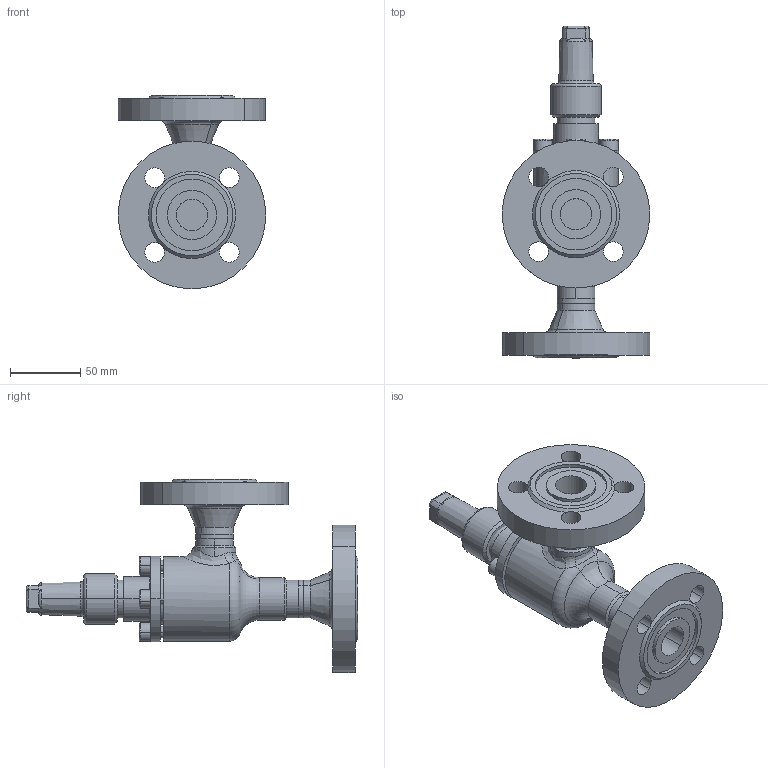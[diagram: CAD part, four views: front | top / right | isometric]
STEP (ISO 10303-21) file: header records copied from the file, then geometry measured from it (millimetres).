
FILE_DESCRIPTION (( 'STEP AP214' ), '1' );
FILE_NAME ('AVB16420D11-DN020_DIN-FL-N_PS40.STEP', '2006-04-27T12:28:31', ( 'Herr Grams' ), ( 'AWP GmbH' ), 'SwSTEP 2.0', 'SolidWorks 2002296', '' );
FILE_SCHEMA (( 'AUTOMOTIVE_DESIGN' ));
Length unit declared in the file: millimetre
Products named in the file (10): AVB16420D11-DN020_DIN-FL-N_PS40; AVB16300K10_Deck+Schr-DN10-20_Standard; Deckel16300K10-DN10-20_Standard; Zylinderschraube-DIN912_M 8x 16; Kappe96300E10_DN6-20_Standard; Gehäuse-kpl16420-DN020_DIN_PS40_Standard; bead16420-Geh-020-2_Standard; bead16420-Geh-020-1_Standard; Flansch-DIN2635-Nut_PS40_DIN-Flansch-DN020_PS40-Nut; Gehäuse16400-DN020_Standard
Assembly tree (13 placements, depth 3):
  AVB16420D11-DN020_DIN-FL-N_PS40
    AVB16300K10_Deck+Schr-DN10-20_Standard
      Zylinderschraube-DIN912_M 8x 16  x4
      Deckel16300K10-DN10-20_Standard
    Kappe96300E10_DN6-20_Standard
    Gehäuse-kpl16420-DN020_DIN_PS40_Standard
      bead16420-Geh-020-1_Standard
      Flansch-DIN2635-Nut_PS40_DIN-Flansch-DN020_PS40-Nut  x2
      bead16420-Geh-020-2_Standard
      Gehäuse16400-DN020_Standard
Bounding box: 104.6 x 236 x 137.3 mm (x, y, z)
Volume: 516547 mm3; surface area: 112173 mm2
Topology: 11 solids, 11 shells, 299 faces, 675 edges, 420 vertices
Faces by surface type: cylinder 121, plane 86, cone 47, torus 30, bspline 15
Entity records: 18280 total; most frequent: CARTESIAN_POINT 12745, DIRECTION 1074, ORIENTED_EDGE 958, EDGE_CURVE 479, AXIS2_PLACEMENT_3D 460, VERTEX_POINT 296, EDGE_LOOP 251, CIRCLE 244
